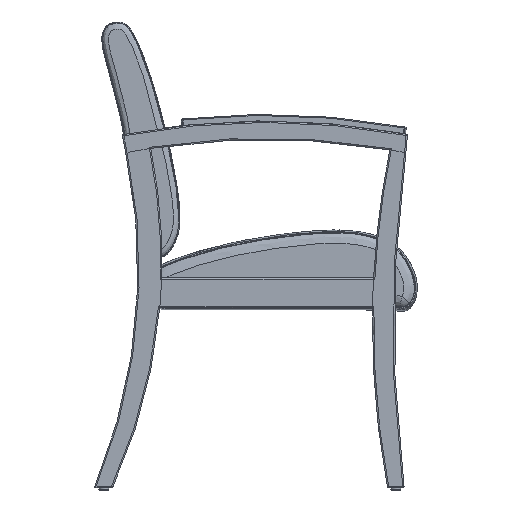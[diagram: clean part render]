
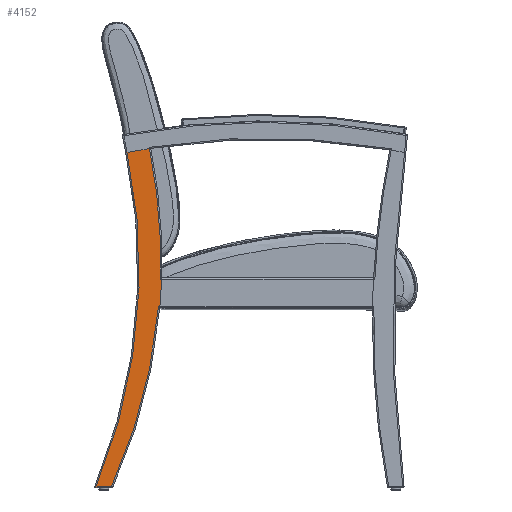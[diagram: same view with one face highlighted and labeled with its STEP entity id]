
A CAD part, left-side view. The second image highlights one B-rep face of the part: STEP entity #4152.
In plain terms, the highlighted planar face has unit normal (-1, 0, 0).
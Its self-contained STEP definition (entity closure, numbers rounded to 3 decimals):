
#124=PLANE('',#4546);
#526=FACE_OUTER_BOUND('',#830,.T.);
#830=EDGE_LOOP('',(#2905,#2906,#2907,#2908,#2909,#2910,#2911,#2912));
#1104=LINE('',#6466,#1246);
#1115=LINE('',#6695,#1257);
#1116=LINE('',#6697,#1258);
#1246=VECTOR('',#5115,0.394);
#1257=VECTOR('',#5218,0.394);
#1258=VECTOR('',#5221,0.394);
#1421=CIRCLE('',#4531,55.625);
#1422=CIRCLE('',#4533,41.368);
#1425=CIRCLE('',#4539,42.33);
#1427=CIRCLE('',#4542,41.368);
#1428=CIRCLE('',#4544,41.468);
#1695=VERTEX_POINT('',#6459);
#1698=VERTEX_POINT('',#6464);
#1716=VERTEX_POINT('',#6550);
#1717=VERTEX_POINT('',#6563);
#1720=VERTEX_POINT('',#6593);
#1724=VERTEX_POINT('',#6644);
#1725=VERTEX_POINT('',#6671);
#1726=VERTEX_POINT('',#6682);
#2108=EDGE_CURVE('',#1698,#1695,#1104,.T.);
#2139=EDGE_CURVE('',#1717,#1716,#1421,.T.);
#2143=EDGE_CURVE('',#1717,#1720,#1422,.T.);
#2149=EDGE_CURVE('',#1695,#1716,#1425,.T.);
#2152=EDGE_CURVE('',#1724,#1698,#1427,.T.);
#2155=EDGE_CURVE('',#1726,#1725,#1428,.T.);
#2157=EDGE_CURVE('',#1726,#1724,#1115,.T.);
#2158=EDGE_CURVE('',#1720,#1725,#1116,.T.);
#2905=ORIENTED_EDGE('',*,*,#2108,.F.);
#2906=ORIENTED_EDGE('',*,*,#2152,.F.);
#2907=ORIENTED_EDGE('',*,*,#2157,.F.);
#2908=ORIENTED_EDGE('',*,*,#2155,.T.);
#2909=ORIENTED_EDGE('',*,*,#2158,.F.);
#2910=ORIENTED_EDGE('',*,*,#2143,.F.);
#2911=ORIENTED_EDGE('',*,*,#2139,.T.);
#2912=ORIENTED_EDGE('',*,*,#2149,.F.);
#4152=ADVANCED_FACE('',(#526),#124,.T.);
#4531=AXIS2_PLACEMENT_3D('',#6564,#5187,#5188);
#4533=AXIS2_PLACEMENT_3D('',#6594,#5192,#5193);
#4539=AXIS2_PLACEMENT_3D('',#6640,#5204,#5205);
#4542=AXIS2_PLACEMENT_3D('',#6659,#5210,#5211);
#4544=AXIS2_PLACEMENT_3D('',#6683,#5214,#5215);
#4546=AXIS2_PLACEMENT_3D('',#6696,#5219,#5220);
#5115=DIRECTION('',(0.,1.,0.));
#5187=DIRECTION('center_axis',(-1.,0.,0.));
#5188=DIRECTION('ref_axis',(0.,-0.189,0.982));
#5192=DIRECTION('center_axis',(1.,0.,0.));
#5193=DIRECTION('ref_axis',(0.,-0.996,0.084));
#5204=DIRECTION('center_axis',(-1.,0.,0.));
#5205=DIRECTION('ref_axis',(0.,-0.996,-0.094));
#5210=DIRECTION('center_axis',(1.,0.,0.));
#5211=DIRECTION('ref_axis',(0.,-0.967,-0.255));
#5214=DIRECTION('center_axis',(-1.,0.,0.));
#5215=DIRECTION('ref_axis',(0.,-0.91,-0.414));
#5218=DIRECTION('',(0.,1.,0.));
#5219=DIRECTION('center_axis',(-1.,0.,0.));
#5220=DIRECTION('ref_axis',(0.,-1.,0.));
#5221=DIRECTION('',(0.,-1.,0.));
#6459=CARTESIAN_POINT('',(1080.802,635.25,-13.4));
#6464=CARTESIAN_POINT('',(1080.802,634.09,-13.4));
#6466=CARTESIAN_POINT('',(1080.802,628.839,-13.4));
#6550=CARTESIAN_POINT('',(1080.802,632.927,11.644));
#6563=CARTESIAN_POINT('',(1080.802,631.249,11.937));
#6564=CARTESIAN_POINT('Origin',(1080.802,622.525,-43.));
#6593=CARTESIAN_POINT('',(1080.802,630.439,2.15));
#6594=CARTESIAN_POINT('Origin',(1080.802,671.779,3.653));
#6640=CARTESIAN_POINT('Origin',(1080.802,674.335,2.855));
#6644=CARTESIAN_POINT('',(1080.802,630.564,0.1));
#6659=CARTESIAN_POINT('Origin',(1080.802,671.779,3.653));
#6671=CARTESIAN_POINT('',(1080.802,630.338,2.15));
#6682=CARTESIAN_POINT('',(1080.802,630.464,0.1));
#6683=CARTESIAN_POINT('Origin',(1080.802,671.779,3.653));
#6695=CARTESIAN_POINT('',(1080.802,619.09,0.1));
#6696=CARTESIAN_POINT('Origin',(1080.802,623.653,0.25));
#6697=CARTESIAN_POINT('',(1080.802,626.994,2.15));
